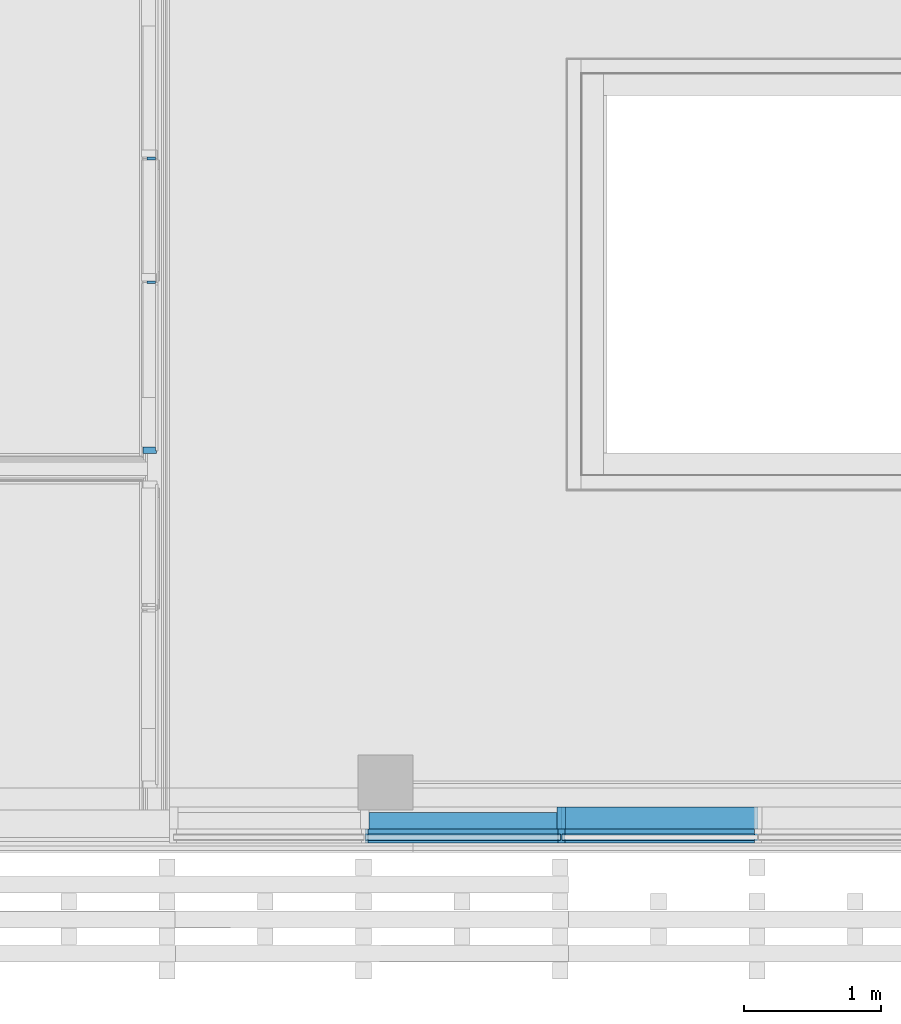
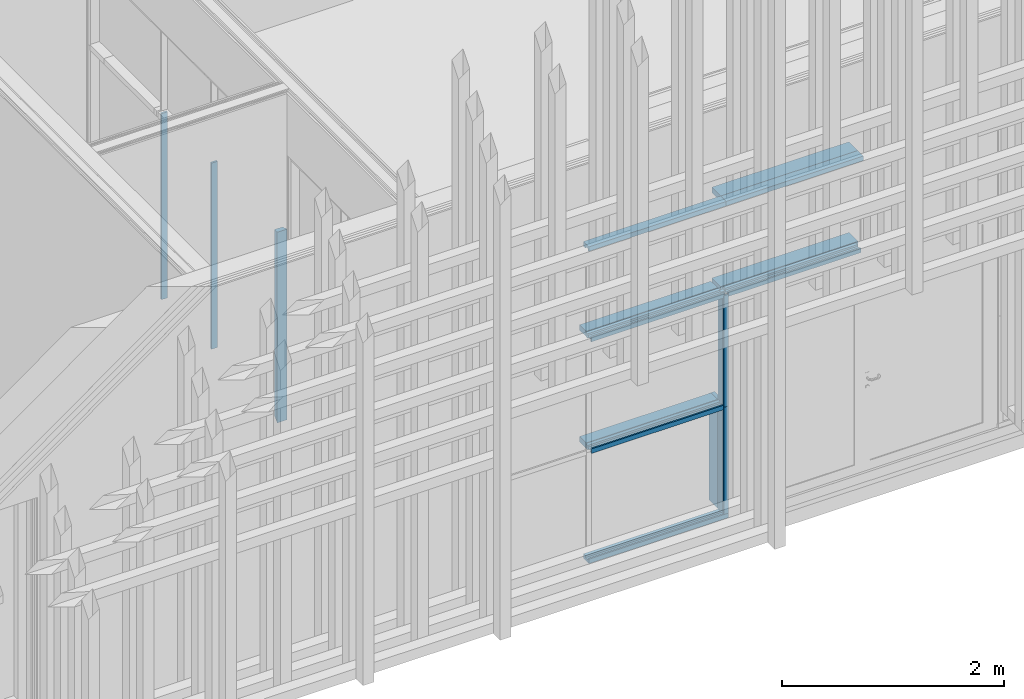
# One storey, part 25 of 260: 16 members, 3 elements without a shape of their own.
"""IFC2X3 building model written with IfcOpenShell, lengths in millimetres."""

import ifcopenshell
import ifcopenshell.guid

model = None  # the IFC model being written
_history = None  # IfcOwnerHistory: only IFC2X3 demands one
_inside = {}  # id of a spatial element -> (the spatial element, [elements in it])
_under = {}  # id of a project, library or spatial element -> (it, [spatial elements below it])
_declared = {}  # id of a project -> (the project, [libraries it declares])
_typed = {}  # id of a type object -> (the type object, [elements of that type])
_made_of = {}  # id of a material, layer set ... -> (it, [elements and type objects made of it])


def new_model(schema):
    """Start an empty IFC model of exactly this schema.

    Asked for "IFC4X3", IfcOpenShell would pick the latest addendum, in which some entities
    have other attributes; the version numbers below select the first issue.
    IFC2X3 requires an IfcOwnerHistory on every rooted entity: one is made here for all.
    """
    global model, _history
    if schema == "IFC4X3":
        model = ifcopenshell.file(schema_version=(4, 3, 0, 0))
    else:
        model = ifcopenshell.file(schema=schema)
    _inside.clear()
    _under.clear()
    _declared.clear()
    _typed.clear()
    _made_of.clear()
    _history = None
    if model.schema == "IFC2X3":
        org = make("IfcOrganization", Name="unknown")
        user = make(
            "IfcPersonAndOrganization",
            ThePerson=make("IfcPerson", FamilyName="unknown"),
            TheOrganization=org,
        )
        app = make(
            "IfcApplication",
            ApplicationDeveloper=org,
            Version="unknown",
            ApplicationFullName="unknown",
            ApplicationIdentifier="unknown",
        )
        _history = make(
            "IfcOwnerHistory",
            OwningUser=user,
            OwningApplication=app,
            ChangeAction="ADDED",
            CreationDate=0,
        )
    return model


def make(cls, **values):
    """One entity of the class cls with the attributes given. An attribute that is None is left unset."""
    return model.create_entity(
        cls, **{name: value for name, value in values.items() if value is not None}
    )


def entity(cls, *values):
    """Any entity or typed value of the class cls, its attributes in the order of the schema. None: left unset."""
    e = model.create_entity(cls)
    for i, value in enumerate(values):
        if value is not None:
            e[i] = value
    return e


def rooted(cls, **values):
    """An entity with a GlobalId (a new one), such as an element, a storey or a relation."""
    return make(cls, GlobalId=ifcopenshell.guid.new(), OwnerHistory=_history, **values)


def si_unit(unit_type, name, prefix=None):
    """IfcSIUnit, for example si_unit("LENGTHUNIT", "METRE", prefix="MILLI")."""
    return make("IfcSIUnit", UnitType=unit_type, Prefix=prefix, Name=name)


def converted_unit(unit_type, name, factor, base, dimensions=None, offset=None):
    """IfcConversionBasedUnit, such as the inch: factor (a typed value) times the base unit."""
    return make(
        "IfcConversionBasedUnit"
        if offset is None
        else "IfcConversionBasedUnitWithOffset",
        ConversionOffset=offset,
        Dimensions=None
        if dimensions is None
        else entity("IfcDimensionalExponents", *dimensions),
        UnitType=unit_type,
        Name=name,
        ConversionFactor=make(
            "IfcMeasureWithUnit", ValueComponent=factor, UnitComponent=base
        ),
    )


def derived_unit(unit_type, elements):
    """IfcDerivedUnit: a product of units, each with its exponent."""
    return make(
        "IfcDerivedUnit",
        Elements=[
            make("IfcDerivedUnitElement", Unit=unit, Exponent=power)
            for unit, power in elements
        ],
        UnitType=unit_type,
    )


def money_unit(currency):
    """IfcMonetaryUnit."""
    return make("IfcMonetaryUnit", Currency=currency)


def assignment(units):
    """IfcUnitAssignment: the units of a project."""
    return None if units is None else make("IfcUnitAssignment", Units=units)


def point(xyz):
    """IfcCartesianPoint."""
    return None if xyz is None else make("IfcCartesianPoint", Coordinates=xyz)


def direction(xyz):
    """IfcDirection."""
    return None if xyz is None else make("IfcDirection", DirectionRatios=xyz)


def frame(location, z_axis=None, x_axis=None):
    """IfcAxis2Placement3D, a coordinate frame: its origin and axes. An axis left out is left unset."""
    return make(
        "IfcAxis2Placement3D",
        Location=point(location),
        Axis=direction(z_axis),
        RefDirection=direction(x_axis),
    )


def origin_with_axes():
    """The frame at (0, 0, 0) with the z axis (0, 0, 1) and the x axis (1, 0, 0) written out."""
    return frame((0.0, 0.0, 0.0), z_axis=(0.0, 0.0, 1.0), x_axis=(1.0, 0.0, 0.0))


def place(relative_to, where):
    """IfcLocalPlacement: puts the frame where relative to a parent placement (None: the world)."""
    return make(
        "IfcLocalPlacement", PlacementRelTo=relative_to, RelativePlacement=where
    )


def context(
    kind, dimensions, precision=None, world=None, true_north=None, identifier=None
):
    """IfcGeometricRepresentationContext, for example the 3D "Model" context."""
    return make(
        "IfcGeometricRepresentationContext",
        ContextIdentifier=identifier,
        ContextType=kind,
        CoordinateSpaceDimension=dimensions,
        Precision=precision,
        WorldCoordinateSystem=world,
        TrueNorth=true_north,
    )


def subcontext(parent, identifier, kind, view, scale=None):
    """IfcGeometricRepresentationSubContext, for example "Body" below "Model"."""
    return make(
        "IfcGeometricRepresentationSubContext",
        ContextIdentifier=identifier,
        ContextType=kind,
        ParentContext=parent,
        TargetScale=scale,
        TargetView=view,
    )


def project(units=None, contexts=None):
    """IfcProject with its units and contexts."""
    return rooted(
        "IfcProject",
        Name="project",
        RepresentationContexts=contexts,
        UnitsInContext=assignment(units),
    )


def spatial(cls, under=None, at=None, **own):
    """A site, building, storey or space (cls), placed at a placement, below another one or the project."""
    s = rooted(cls, ObjectPlacement=at, **own)
    if under is not None:
        _under.setdefault(under.id(), (under, []))[1].append(s)
    return s


def faces_of(points, faces, orient=None, outer=None):
    """IfcFace entities. A face is a list of loops; a loop is a list of indices into points, from 0.

    orient and outer hold one flag for each loop. By default every Orientation is true, the
    first loop of a face is its IfcFaceOuterBound and the others are IfcFaceBound.
    """
    made = []
    for i, loops in enumerate(faces):
        bounds = []
        for j, loop in enumerate(loops):
            is_outer = j == 0 if outer is None else outer[i][j]
            bounds.append(
                make(
                    "IfcFaceOuterBound" if is_outer else "IfcFaceBound",
                    Bound=make("IfcPolyLoop", Polygon=[points[k] for k in loop]),
                    Orientation=True if orient is None else orient[i][j],
                )
            )
        made.append(make("IfcFace", Bounds=bounds))
    return made


def faceted_brep(points, faces, orient=None, outer=None, voids=None):
    """IfcFacetedBrep: a solid bounded by flat faces; with voids (closed shells), ...WithVoids."""
    shared = [point(p) for p in points]
    hull = make("IfcClosedShell", CfsFaces=faces_of(shared, faces, orient, outer))
    if voids is None:
        return make("IfcFacetedBrep", Outer=hull)
    return make(
        "IfcFacetedBrepWithVoids",
        Outer=hull,
        Voids=[
            make(cls, CfsFaces=faces_of(shared, fs, o, b)) for cls, fs, o, b in voids
        ],
    )


def shape(context_of_items, identifier, shape_type, items):
    """IfcShapeRepresentation: the items that make up one representation, for example the "Body"."""
    return make(
        "IfcShapeRepresentation",
        ContextOfItems=context_of_items,
        RepresentationIdentifier=identifier,
        RepresentationType=shape_type,
        Items=items,
    )


def source(mapping_origin, context_of_items, identifier, shape_type, items):
    """IfcRepresentationMap: a shape defined once, which mapped items show again and again."""
    return make(
        "IfcRepresentationMap",
        MappingOrigin=mapping_origin,
        MappedRepresentation=shape(context_of_items, identifier, shape_type, items),
    )


def transform(
    local_origin,
    x_axis=None,
    y_axis=None,
    z_axis=None,
    scale=None,
    scale2=None,
    scale3=None,
    uniform=True,
):
    """IfcCartesianTransformationOperator3D, or its non-uniform kind. x_axis, y_axis, z_axis: its Axis1, 2, 3."""
    if uniform:
        return make(
            "IfcCartesianTransformationOperator3D",
            Axis1=direction(x_axis),
            Axis2=direction(y_axis),
            LocalOrigin=point(local_origin),
            Scale=scale,
            Axis3=direction(z_axis),
        )
    return make(
        "IfcCartesianTransformationOperator3DnonUniform",
        Axis1=direction(x_axis),
        Axis2=direction(y_axis),
        LocalOrigin=point(local_origin),
        Scale=scale,
        Axis3=direction(z_axis),
        Scale2=scale2,
        Scale3=scale3,
    )


def mapped(mapping_source, mapping_target):
    """IfcMappedItem: shows the shape of a source again, moved by a transform."""
    return make(
        "IfcMappedItem", MappingSource=mapping_source, MappingTarget=mapping_target
    )


def material(Name=None, Category=None):
    """IfcMaterial."""
    return make("IfcMaterial", Name=Name, Category=Category)


def made_of(thing, what):
    """Note that an element or type object is made of a material, layer set ...; save() writes the relation."""
    if what is not None:
        _made_of.setdefault(what.id(), (what, []))[1].append(thing)
    return thing


def type_object(cls, material=None, **own):
    """A type object (cls), such as IfcWallType, which elements share."""
    return made_of(rooted(cls, **own), material)


def element(
    cls,
    number,
    at=None,
    inside=None,
    cuts=None,
    type_object=None,
    material=None,
    context=None,
    identifier="Body",
    shape_type=None,
    held_by="IfcProductDefinitionShape",
    body=None,
    shapes=None,
    **own,
):
    """One element of the class cls, such as IfcWall. Its Tag is "e" and its number.

    at: its placement. inside: the storey or other place that contains it. cuts: it is an
    opening in that element (IfcRelVoidsElement). A single representation is given by context,
    identifier, shape_type and body (its items); several are given by shapes. held_by: the class
    of the entity that holds the representations. save() writes the other relations.
    """
    e = rooted(cls, Tag="e%d" % number, ObjectPlacement=at, **own)
    if body is not None:
        shapes = [shape(context, identifier, shape_type, body)]
    if shapes is not None:
        e.Representation = make(held_by, Representations=shapes)
    if inside is not None:
        _inside.setdefault(inside.id(), (inside, []))[1].append(e)
    if cuts is not None:
        rooted(
            "IfcRelVoidsElement", RelatingBuildingElement=cuts, RelatedOpeningElement=e
        )
    if type_object is not None:
        _typed.setdefault(type_object.id(), (type_object, []))[1].append(e)
    return made_of(e, material)


def aggregate(whole, parts):
    """IfcRelAggregates: a whole, such as a stair, and the parts it consists of."""
    return rooted("IfcRelAggregates", RelatingObject=whole, RelatedObjects=parts)


def save(model, path):
    """Write the relations noted so far, then the file.

    IfcRelAggregates (storeys below a building ...), IfcRelContainedInSpatialStructure (elements
    in a storey), IfcRelDefinesByType, IfcRelAssociatesMaterial and IfcRelDeclares: one each for
    every whole, place, type object, material and project.
    """
    for whole, parts in _under.values():
        aggregate(whole, parts)
    for where, things in _inside.values():
        rooted(
            "IfcRelContainedInSpatialStructure",
            RelatedElements=things,
            RelatingStructure=where,
        )
    for kind, things in _typed.values():
        rooted("IfcRelDefinesByType", RelatedObjects=things, RelatingType=kind)
    for what, things in _made_of.values():
        rooted("IfcRelAssociatesMaterial", RelatedObjects=things, RelatingMaterial=what)
    for by, libraries in _declared.values():
        rooted("IfcRelDeclares", RelatingContext=by, RelatedDefinitions=libraries)
    model.write(path)


model = new_model("IFC2X3")

# Units and contexts
model_context = context("Model", 3, precision=0.01, world=origin_with_axes(), true_north=direction((0.0, 1.0)))
body_context = subcontext(model_context, "Body", "Model", "MODEL_VIEW")
ifc_project = project(units=[si_unit("LENGTHUNIT", "METRE", prefix="MILLI"), si_unit("AREAUNIT", "SQUARE_METRE"), si_unit("VOLUMEUNIT", "CUBIC_METRE"), converted_unit("PLANEANGLEUNIT", "DEGREE", entity("IfcPlaneAngleMeasure", 0.0174532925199), si_unit("PLANEANGLEUNIT", "RADIAN"), dimensions=[0, 0, 0, 0, 0, 0, 0]), money_unit("EUR"), converted_unit("TIMEUNIT", "Year", entity("IfcTimeMeasure", 31556926.0), si_unit("TIMEUNIT", "SECOND"), dimensions=[0, 0, 1, 0, 0, 0, 0]), si_unit("MASSUNIT", "GRAM", prefix="KILO"), si_unit("THERMODYNAMICTEMPERATUREUNIT", "DEGREE_CELSIUS"), si_unit("LUMINOUSINTENSITYUNIT", "LUMEN"), si_unit("ENERGYUNIT", "JOULE", prefix="MEGA"), derived_unit("THERMALCONDUCTANCEUNIT", [(si_unit("POWERUNIT", "WATT"), 1), (si_unit("LENGTHUNIT", "METRE"), -1), (si_unit("THERMODYNAMICTEMPERATUREUNIT", "KELVIN"), -1)]), derived_unit("SPECIFICHEATCAPACITYUNIT", [(si_unit("ENERGYUNIT", "JOULE"), 1), (si_unit("MASSUNIT", "GRAM", prefix="KILO"), -1), (si_unit("THERMODYNAMICTEMPERATUREUNIT", "KELVIN"), -1)]), derived_unit("MASSDENSITYUNIT", [(si_unit("MASSUNIT", "GRAM", prefix="KILO"), 1), (si_unit("VOLUMEUNIT", "CUBIC_METRE"), -1)])], contexts=[model_context])

# Site, building, storey
site_placement = place(None, origin_with_axes())
site = spatial("IfcSite", under=ifc_project, at=site_placement, Name="Kolde pst 67a", CompositionType="ELEMENT")
building_placement = place(site_placement, origin_with_axes())
building = spatial("IfcBuilding", under=site, at=building_placement, Name="Riigigümnaasium", CompositionType="ELEMENT")
storey_placement = place(building_placement, origin_with_axes())
storey = spatial("IfcBuildingStorey", under=building, at=storey_placement, Name="1. korrus", CompositionType="ELEMENT", Elevation=0.0)

# Curtain wall, members
curtain_wall_type = type_object("IfcCurtainWallType", Name="Curtain Wall Type", PredefinedType="NOTDEFINED")
curtain_wall_1_placement = place(storey_placement, frame((20393.1746439, 47839.7660528, -0.000116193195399), z_axis=(0.0, 0.0, 1.0), x_axis=(1.0, 0.0, 0.0)))
curtain_wall_1 = element("IfcCurtainWall", 1, at=curtain_wall_1_placement, inside=storey, type_object=curtain_wall_type, Name="KLAASFASSAAD")
ifc_material_1 = material(Name="_METALL - alumiinium")
member_type_1 = type_object("IfcMemberType", Name="Boundary Frame 50 x 100", PredefinedType="MEMBER")
shared_shape_1 = source(origin_with_axes(), body_context, "Body", "Brep", [
    faceted_brep([(-30.0, -24.0, 1430.0), (-50.0, -24.0, 1430.0), (-50.0, -60.0, 1430.0), (0.0, -60.0, 1430.0), (0.0, 40.0, 1430.0), (-50.0, 40.0, 1430.0), (-50.0, 24.0, 1430.0), (-30.0, 24.0, 1430.0), (-30.0, -24.0, 0.0), (-50.0, -24.0, 0.0), (-50.0, -60.0, 0.0), (0.0, -60.0, 0.0), (0.0, 40.0, 0.0), (-50.0, 40.0, 0.0), (-50.0, 24.0, 0.0), (-30.0, 24.0, 0.0)], [[[0, 1, 2, 3, 4, 5, 6, 7]], [[0, 8, 9, 1]], [[9, 10, 2, 1]], [[10, 11, 3, 2]], [[11, 12, 4, 3]], [[12, 13, 5, 4]], [[6, 5, 13, 14]], [[14, 15, 7, 6]], [[7, 15, 8, 0]], [[8, 15, 14, 13, 12, 11, 10, 9]]]),
])
member_1_placement = place(curtain_wall_1_placement, frame((-6435.0, 0.0, 3490.00021117), z_axis=(1.0, 0.0, 0.0), x_axis=(0.0, 0.0, -1.0)))
member_1 = element("IfcMember", 2, at=member_1_placement, type_object=member_type_1, material=ifc_material_1, Name="RF RAAM SERV-714", ObjectType="MEMBER", context=body_context, shape_type="MappedRepresentation", body=[
    mapped(shared_shape_1, transform((0.0, 0.0, 0.0), x_axis=(-1.0, 0.0, 0.0), y_axis=(0.0, -1.0, 0.0), z_axis=(0.0, 0.0, 1.0))),
])
member_2_placement = place(curtain_wall_1_placement, frame((-7865.0, 0.0, 3490.00021117), z_axis=(1.0, 0.0, 0.0), x_axis=(0.0, 0.0, -1.0)))
member_2 = element("IfcMember", 3, at=member_2_placement, type_object=member_type_1, material=ifc_material_1, Name="RF RAAM SERV-713", ObjectType="MEMBER", context=body_context, shape_type="MappedRepresentation", body=[
    mapped(shared_shape_1, transform((0.0, 0.0, 0.0), x_axis=(-1.0, 0.0, 0.0), y_axis=(0.0, -1.0, 0.0), z_axis=(0.0, 0.0, 1.0))),
])
member_type_2 = type_object("IfcMemberType", Name="Mullion Frame 50 x 100", PredefinedType="MEMBER")
shared_shape_2 = source(origin_with_axes(), body_context, "Body", "Brep", [
    faceted_brep([(5.0, -24.0, 1230.00011619), (5.0, 24.0, 1230.00011619), (25.0, 24.0, 1230.00011619), (25.0, 40.0, 1230.00011619), (-25.0, 40.0, 1230.00011619), (-25.0, 24.0, 1230.00011619), (-5.0, 24.0, 1230.00011619), (-5.0, -24.0, 1230.00011619), (-25.0, -24.0, 1230.00011619), (-25.0, -60.0, 1230.00011619), (25.0, -60.0, 1230.00011619), (25.0, -24.0, 1230.00011619), (5.0, -24.0, 50.0), (5.0, 24.0, 50.0), (25.0, 24.0, 50.0), (25.0, 40.0, 50.0), (-25.0, 40.0, 50.0), (-25.0, 24.0, 50.0), (-5.0, 24.0, 50.0), (-5.0, -24.0, 50.0), (-25.0, -24.0, 50.0), (-25.0, -60.0, 50.0), (25.0, -60.0, 50.0), (25.0, -24.0, 50.0)], [[[0, 1, 2, 3, 4, 5, 6, 7, 8, 9, 10, 11]], [[0, 12, 13, 1]], [[1, 13, 14, 2]], [[14, 15, 3, 2]], [[4, 3, 15, 16]], [[17, 5, 4, 16]], [[5, 17, 18, 6]], [[7, 6, 18, 19]], [[8, 7, 19, 20]], [[8, 20, 21, 9]], [[10, 9, 21, 22]], [[11, 10, 22, 23]], [[11, 23, 12, 0]], [[13, 12, 23, 22, 21, 20, 19, 18, 17, 16, 15, 14]]]),
])
member_3_placement = place(curtain_wall_1_placement, frame((-6435.0, 0.0, 0.0), z_axis=(0.0, 0.0, 1.0), x_axis=(1.0, 0.0, 0.0)))
member_3 = element("IfcMember", 4, at=member_3_placement, type_object=member_type_2, material=ifc_material_1, Name="RF RAAM VERT-350", ObjectType="MEMBER", context=body_context, shape_type="MappedRepresentation", body=[
    mapped(shared_shape_2, transform((0.0, 0.0, 0.0), x_axis=(-1.0, 0.0, 0.0), y_axis=(0.0, -1.0, 0.0), z_axis=(0.0, 0.0, 1.0))),
])
shared_shape_3 = source(origin_with_axes(), body_context, "Body", "Brep", [
    faceted_brep([(-30.0, -24.0, 1430.0), (-50.0, -24.0, 1430.0), (-50.0, -60.0, 1430.0), (0.0, -60.0, 1430.0), (0.0, 40.0, 1430.0), (-50.0, 40.0, 1430.0), (-50.0, 24.0, 1430.0), (-30.0, 24.0, 1430.0), (-30.0, -24.0, -25.0), (-50.0, -24.0, -25.0), (-50.0, -60.0, -25.0), (0.0, -60.0, -25.0), (0.0, 40.0, -25.0), (-50.0, 40.0, -25.0), (-50.0, 24.0, -25.0), (-30.0, 24.0, -25.0)], [[[0, 1, 2, 3, 4, 5, 6, 7]], [[0, 8, 9, 1]], [[9, 10, 2, 1]], [[10, 11, 3, 2]], [[11, 12, 4, 3]], [[12, 13, 5, 4]], [[6, 5, 13, 14]], [[14, 15, 7, 6]], [[7, 15, 8, 0]], [[8, 15, 14, 13, 12, 11, 10, 9]]]),
])
member_4_placement = place(curtain_wall_1_placement, frame((-6435.0, 0.0, 0.0), z_axis=(-1.0, 0.0, 0.0), x_axis=(0.0, 0.0, 1.0)))
member_4 = element("IfcMember", 5, at=member_4_placement, type_object=member_type_1, material=ifc_material_1, Name="RF RAAM SERV-707", ObjectType="MEMBER", context=body_context, shape_type="MappedRepresentation", body=[
    mapped(shared_shape_3, transform((0.0, 0.0, 0.0), x_axis=(-1.0, 0.0, 0.0), y_axis=(0.0, -1.0, 0.0), z_axis=(0.0, 0.0, 1.0))),
])
member_type_3 = type_object("IfcMemberType", Name="Transom Frame 50 x 100", PredefinedType="MEMBER")
shared_shape_4 = source(origin_with_axes(), body_context, "Body", "Brep", [
    faceted_brep([(5.0, -24.0, 1405.0), (5.0, 24.0, 1405.0), (25.0, 24.0, 1405.0), (25.0, 40.0, 1405.0), (-25.0, 40.0, 1405.0), (-25.0, 24.0, 1405.0), (-5.0, 24.0, 1405.0), (-5.0, -24.0, 1405.0), (-25.0, -24.0, 1405.0), (-25.0, -60.0, 1405.0), (25.0, -60.0, 1405.0), (25.0, -24.0, 1405.0), (5.0, -24.0, 25.0), (5.0, 24.0, 25.0), (25.0, 24.0, 25.0), (25.0, 40.0, 25.0), (-25.0, 40.0, 25.0), (-25.0, 24.0, 25.0), (-5.0, 24.0, 25.0), (-5.0, -24.0, 25.0), (-25.0, -24.0, 25.0), (-25.0, -60.0, 25.0), (25.0, -60.0, 25.0), (25.0, -24.0, 25.0)], [[[0, 1, 2, 3, 4, 5, 6, 7, 8, 9, 10, 11]], [[0, 12, 13, 1]], [[1, 13, 14, 2]], [[14, 15, 3, 2]], [[4, 3, 15, 16]], [[17, 5, 4, 16]], [[5, 17, 18, 6]], [[7, 6, 18, 19]], [[8, 7, 19, 20]], [[8, 20, 21, 9]], [[10, 9, 21, 22]], [[11, 10, 22, 23]], [[11, 23, 12, 0]], [[13, 12, 23, 22, 21, 20, 19, 18, 17, 16, 15, 14]]]),
])
member_5_placement = place(curtain_wall_1_placement, frame((-6435.0, 0.0, 1230.00011619), z_axis=(-1.0, 0.0, 0.0), x_axis=(0.0, 0.0, 1.0)))
member_5 = element("IfcMember", 6, at=member_5_placement, type_object=member_type_3, material=ifc_material_1, Name="RF RAAM HOR-223", ObjectType="MEMBER", context=body_context, shape_type="MappedRepresentation", body=[
    mapped(shared_shape_4, transform((0.0, 0.0, 0.0), x_axis=(-1.0, 0.0, 0.0), y_axis=(0.0, -1.0, 0.0), z_axis=(0.0, 0.0, 1.0))),
])
member_6_placement = place(curtain_wall_1_placement, frame((-5005.0, 0.0, 2460.00011619), z_axis=(-1.0, 0.0, 0.0), x_axis=(0.0, 0.0, 1.0)))
member_6 = element("IfcMember", 7, at=member_6_placement, type_object=member_type_3, material=ifc_material_1, Name="RF RAAM HOR-231", ObjectType="MEMBER", context=body_context, shape_type="MappedRepresentation", body=[
    mapped(shared_shape_4, transform((0.0, 0.0, 0.0), x_axis=(-1.0, 0.0, 0.0), y_axis=(0.0, -1.0, 0.0), z_axis=(0.0, 0.0, 1.0))),
])
member_7_placement = place(curtain_wall_1_placement, frame((-6435.0, 0.0, 2460.00011619), z_axis=(-1.0, 0.0, 0.0), x_axis=(0.0, 0.0, 1.0)))
member_7 = element("IfcMember", 8, at=member_7_placement, type_object=member_type_3, material=ifc_material_1, Name="RF RAAM HOR-232", ObjectType="MEMBER", context=body_context, shape_type="MappedRepresentation", body=[
    mapped(shared_shape_4, transform((0.0, 0.0, 0.0), x_axis=(-1.0, 0.0, 0.0), y_axis=(0.0, -1.0, 0.0), z_axis=(0.0, 0.0, 1.0))),
])
shared_shape_5 = source(origin_with_axes(), body_context, "Body", "Brep", [
    faceted_brep([(5.0, -24.0, 1230.0), (5.0, 24.0, 1230.0), (25.0, 24.0, 1230.0), (25.0, 40.0, 1230.0), (-25.0, 40.0, 1230.0), (-25.0, 24.0, 1230.0), (-5.0, 24.0, 1230.0), (-5.0, -24.0, 1230.0), (-25.0, -24.0, 1230.0), (-25.0, -60.0, 1230.0), (25.0, -60.0, 1230.0), (25.0, -24.0, 1230.0), (5.0, -24.0, 0.0), (5.0, 24.0, 0.0), (25.0, 24.0, 0.0), (25.0, 40.0, 0.0), (-25.0, 40.0, 0.0), (-25.0, 24.0, 0.0), (-5.0, 24.0, 0.0), (-5.0, -24.0, 0.0), (-25.0, -24.0, 0.0), (-25.0, -60.0, 0.0), (25.0, -60.0, 0.0), (25.0, -24.0, 0.0)], [[[0, 1, 2, 3, 4, 5, 6, 7, 8, 9, 10, 11]], [[0, 12, 13, 1]], [[1, 13, 14, 2]], [[14, 15, 3, 2]], [[3, 15, 16, 4]], [[17, 5, 4, 16]], [[5, 17, 18, 6]], [[7, 6, 18, 19]], [[8, 7, 19, 20]], [[8, 20, 21, 9]], [[9, 21, 22, 10]], [[11, 10, 22, 23]], [[11, 23, 12, 0]], [[13, 12, 23, 22, 21, 20, 19, 18, 17, 16, 15, 14]]]),
])
member_8_placement = place(curtain_wall_1_placement, frame((-6435.0, 0.0, 1230.00011619), z_axis=(0.0, 0.0, 1.0), x_axis=(1.0, 0.0, 0.0)))
member_8 = element("IfcMember", 9, at=member_8_placement, type_object=member_type_2, material=ifc_material_1, Name="RF RAAM VERT-358", ObjectType="MEMBER", context=body_context, shape_type="MappedRepresentation", body=[
    mapped(shared_shape_5, transform((0.0, 0.0, 0.0), x_axis=(-1.0, 0.0, 0.0), y_axis=(0.0, -1.0, 0.0), z_axis=(0.0, 0.0, 1.0))),
])
aggregate(curtain_wall_1, [member_4, member_3, member_5, member_8, member_6, member_7, member_1, member_2])

curtain_wall_2_placement = place(storey_placement, frame((20393.1747334, 47899.7660528, -0.000116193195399), z_axis=(0.0, 0.0, 1.0), x_axis=(1.0, 0.0, 0.0)))
curtain_wall_2 = element("IfcCurtainWall", 10, at=curtain_wall_2_placement, inside=storey, type_object=curtain_wall_type, Name="Klaasfassaadi puitkarkass")
ifc_material_2 = material(Name="_KANDETARIND - liimpuit vastavalt EK osale")
member_type_4 = type_object("IfcMemberType", Name="Boundary Frame 60 x 160", PredefinedType="MEMBER")
shared_shape_6 = source(origin_with_axes(), body_context, "Body", "Brep", [
    faceted_brep([(-60.0, -160.0, 0.0), (-60.0, -160.0, 1430.0), (-60.0, 0.0, 1430.0), (-60.0, 0.0, 0.0), (0.0, -160.0, 0.0), (0.0, -160.0, 1430.0), (0.0, 0.0, 1430.0), (0.0, 0.0, 0.0)], [[[0, 1, 2, 3]], [[4, 5, 1, 0]], [[1, 5, 6, 2]], [[3, 2, 6, 7]], [[0, 3, 7, 4]], [[7, 6, 5, 4]]]),
])
member_9_placement = place(curtain_wall_2_placement, frame((-6435.0, 0.0, 3490.00021117), z_axis=(1.0, 0.0, 0.0), x_axis=(0.0, 0.0, -1.0)))
member_9 = element("IfcMember", 11, at=member_9_placement, type_object=member_type_4, material=ifc_material_2, Name="RF RAAM SERV-627", ObjectType="MEMBER", context=body_context, shape_type="MappedRepresentation", body=[
    mapped(shared_shape_6, transform((0.0, 0.0, 0.0), x_axis=(-1.0, 0.0, 0.0), y_axis=(0.0, -1.0, 0.0), z_axis=(0.0, 0.0, 1.0))),
])
member_type_5 = type_object("IfcMemberType", Name="Mullion Frame 60 x 160", PredefinedType="MEMBER")
shared_shape_7 = source(origin_with_axes(), body_context, "Body", "Brep", [
    faceted_brep([(-30.0, 0.0, 60.0), (-30.0, -160.0, 60.0), (-30.0, -160.0, 1230.00011619), (-30.0, 0.0, 1230.00011619), (30.0, 0.0, 60.0), (30.0, -160.0, 60.0), (30.0, -160.0, 1230.00011619), (30.0, 0.0, 1230.00011619)], [[[0, 1, 2, 3]], [[1, 0, 4, 5]], [[1, 5, 6, 2]], [[2, 6, 7, 3]], [[4, 0, 3, 7]], [[5, 4, 7, 6]]]),
])
member_10_placement = place(curtain_wall_2_placement, frame((-6435.0, 0.0, 0.0), z_axis=(0.0, 0.0, 1.0), x_axis=(1.0, 0.0, 0.0)))
member_10 = element("IfcMember", 12, at=member_10_placement, type_object=member_type_5, material=ifc_material_2, Name="RF RAAM VERT-350", ObjectType="MEMBER", context=body_context, shape_type="MappedRepresentation", body=[
    mapped(shared_shape_7, transform((0.0, 0.0, 0.0), x_axis=(-1.0, 0.0, 0.0), y_axis=(0.0, -1.0, 0.0), z_axis=(0.0, 0.0, 1.0))),
])
member_type_6 = type_object("IfcMemberType", Name="Transom Frame 60 x 120", PredefinedType="MEMBER")
shared_shape_8 = source(origin_with_axes(), body_context, "Body", "Brep", [
    faceted_brep([(-30.0, 0.0, 30.0), (-30.0, -120.0, 30.0), (-30.0, -120.0, 1400.0), (-30.0, 0.0, 1400.0), (30.0, 0.0, 30.0), (30.0, -120.0, 30.0), (30.0, -120.0, 1400.0), (30.0, 0.0, 1400.0)], [[[0, 1, 2, 3]], [[1, 0, 4, 5]], [[1, 5, 6, 2]], [[2, 6, 7, 3]], [[4, 0, 3, 7]], [[5, 4, 7, 6]]]),
])
member_11_placement = place(curtain_wall_2_placement, frame((-6435.0, 0.0, 1230.00011619), z_axis=(-1.0, 0.0, 0.0), x_axis=(0.0, 0.0, 1.0)))
member_11 = element("IfcMember", 13, at=member_11_placement, type_object=member_type_6, material=ifc_material_2, Name="RF RAAM HOR-223", ObjectType="MEMBER", context=body_context, shape_type="MappedRepresentation", body=[
    mapped(shared_shape_8, transform((0.0, 0.0, 0.0), x_axis=(-1.0, 0.0, 0.0), y_axis=(0.0, -1.0, 0.0), z_axis=(0.0, 0.0, 1.0))),
])
member_12_placement = place(curtain_wall_2_placement, frame((-6435.0, 0.0, 2460.00011619), z_axis=(-1.0, 0.0, 0.0), x_axis=(0.0, 0.0, 1.0)))
member_12 = element("IfcMember", 14, at=member_12_placement, type_object=member_type_6, material=ifc_material_2, Name="RF RAAM HOR-232", ObjectType="MEMBER", context=body_context, shape_type="MappedRepresentation", body=[
    mapped(shared_shape_8, transform((0.0, 0.0, 0.0), x_axis=(-1.0, 0.0, 0.0), y_axis=(0.0, -1.0, 0.0), z_axis=(0.0, 0.0, 1.0))),
])
shared_shape_9 = source(origin_with_axes(), body_context, "Body", "Brep", [
    faceted_brep([(-30.0, -160.0, 0.0), (-30.0, -160.0, 1430.0), (-30.0, 0.0, 1430.0), (-30.0, 0.0, 0.0), (30.0, -160.0, 0.0), (30.0, -160.0, 1430.0), (30.0, 0.0, 1430.0), (30.0, 0.0, 0.0)], [[[0, 1, 2, 3]], [[4, 5, 1, 0]], [[1, 5, 6, 2]], [[3, 2, 6, 7]], [[0, 3, 7, 4]], [[7, 6, 5, 4]]]),
])
member_13_placement = place(curtain_wall_2_placement, frame((-5005.0, 0.0, 2460.00011619), z_axis=(-1.0, 0.0, 0.0), x_axis=(0.0, 0.0, 1.0)))
member_13 = element("IfcMember", 15, at=member_13_placement, type_object=member_type_4, material=ifc_material_2, Name="RF RAAM HOR-231", ObjectType="MEMBER", context=body_context, shape_type="MappedRepresentation", body=[
    mapped(shared_shape_9, transform((0.0, 0.0, 0.0), x_axis=(-1.0, 0.0, 0.0), y_axis=(0.0, -1.0, 0.0), z_axis=(0.0, 0.0, 1.0))),
])
aggregate(curtain_wall_2, [member_10, member_11, member_13, member_12, member_9])

curtain_wall_3_placement = place(storey_placement, frame((11015.3356079, 51182.3220161, 399.999976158), z_axis=(0.0, 0.0, 1.0), x_axis=(1.0, 0.0, 0.0)))
curtain_wall_3 = element("IfcCurtainWall", 16, at=curtain_wall_3_placement, inside=storey, type_object=curtain_wall_type, Name="KLAASSEIN")
member_type_7 = type_object("IfcMemberType", Name="Mullion Frame 20 x 70", PredefinedType="MEMBER")
shared_shape_10 = source(origin_with_axes(), body_context, "Body", "Brep", [
    faceted_brep([(0.0, -10.0, 50.0), (-10.0, -10.0, 50.0), (-10.0, -10.0, 2100.0000436), (0.0, -10.0, 2100.0000436), (10.0, -10.0, 2100.0000436), (10.0, -10.0, 50.0), (10.0, -70.0, 50.0), (-10.0, -70.0, 50.0), (-10.0, -70.0, 2100.0000436), (10.0, -70.0, 2100.0000436)], [[[0, 1, 2, 3, 4, 5]], [[1, 0, 5, 6, 7]], [[2, 1, 7, 8]], [[3, 2, 8, 9, 4]], [[4, 9, 6, 5]], [[8, 7, 6, 9]]]),
])
member_14_placement = place(curtain_wall_3_placement, frame((0.00772129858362, 694.686802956, 5.96047033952e-06), z_axis=(0.0, 0.0, 1.0), x_axis=(-1.11147909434e-05, -0.999999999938, 0.0)))
member_14 = element("IfcMember", 17, at=member_14_placement, type_object=member_type_7, material=ifc_material_1, Name="RF RAAM VERT-395", ObjectType="MEMBER", context=body_context, shape_type="MappedRepresentation", body=[
    mapped(shared_shape_10, transform((0.0, 0.0, 0.0))),
])
member_15_placement = place(curtain_wall_3_placement, frame((0.0177246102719, 1594.68678837, 5.96047033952e-06), z_axis=(0.0, 0.0, 1.0), x_axis=(-1.11147909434e-05, -0.999999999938, 0.0)))
member_15 = element("IfcMember", 18, at=member_15_placement, type_object=member_type_7, material=ifc_material_1, Name="RF RAAM VERT-396", ObjectType="MEMBER", context=body_context, shape_type="MappedRepresentation", body=[
    mapped(shared_shape_10, transform((0.0, 0.0, 0.0))),
])
ifc_material_3 = material(Name="_GENEERILINE MATERJAL")
shared_shape_11 = source(origin_with_axes(), body_context, "Body", "Brep", [
    faceted_brep([(50.0, -10.0, -2.5916668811e-07), (50.0, -10.0, 2050.00002621), (50.0, -100.0, 2050.00002621), (50.0, -100.0, -2.5916668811e-07), (25.0, -10.0, 2075.00002621), (25.0, -10.0, -2.59166466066e-07), (25.0, 0.0, 2075.00002621), (0.0, 0.0, 2100.00002621), (0.0, -100.0, 2100.00002621), (0.0, -100.0, -2.5916668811e-07), (0.0, 0.0, -2.5916668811e-07), (25.0, 0.0, -2.5916668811e-07)], [[[0, 1, 2, 3]], [[4, 1, 0, 5]], [[4, 6, 7, 8, 2, 1]], [[3, 2, 8, 9]], [[5, 0, 3, 9, 10, 11]], [[11, 6, 4, 5]], [[6, 11, 10, 7]], [[9, 8, 7, 10]]]),
])
member_16_placement = place(curtain_wall_3_placement, frame((-0.0061391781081, -552.343101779, 2100.00004956), z_axis=(0.0, 0.0, -1.0), x_axis=(1.11147909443e-05, 0.999999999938, 0.0)))
member_16 = element("IfcMember", 19, at=member_16_placement, type_object=member_type_1, material=ifc_material_3, Name="RF RAAM SERV-512", ObjectType="MEMBER", context=body_context, shape_type="MappedRepresentation", body=[
    mapped(shared_shape_11, transform((0.0, 0.0, 0.0))),
])
aggregate(curtain_wall_3, [member_14, member_15, member_16])

save(model, "model.ifc")
